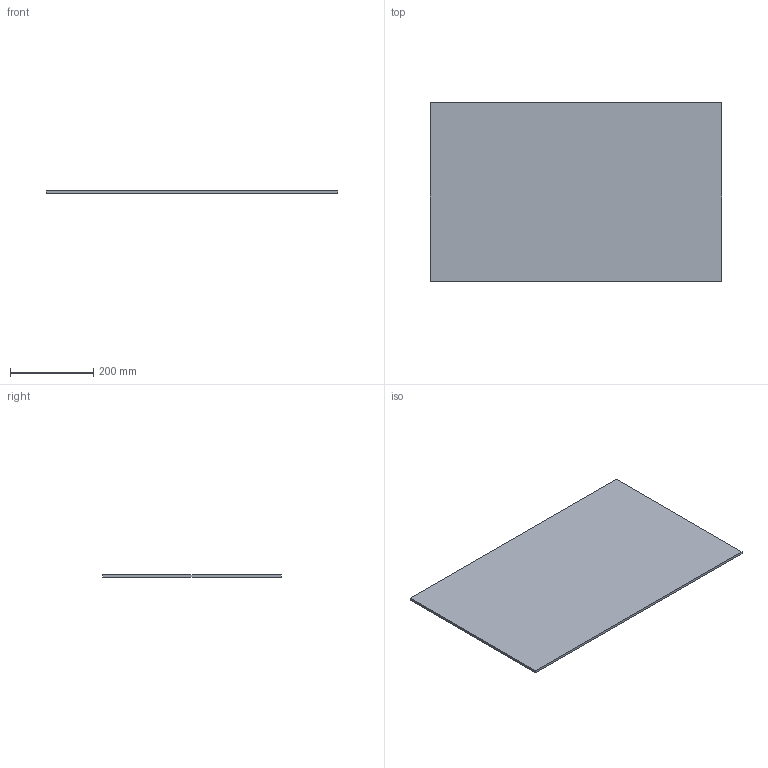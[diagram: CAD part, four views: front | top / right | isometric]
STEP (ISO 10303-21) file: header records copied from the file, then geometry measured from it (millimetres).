
FILE_DESCRIPTION (( 'STEP AP214' ), '1' );
FILE_NAME ('Lochblech_NL450_KAB800_19.step', '2010-10-11T13:38:31', ( 'grass' ), ( '' ), 'SwSTEP 2.0', 'SolidWorks 2010', '' );
FILE_SCHEMA (( 'AUTOMOTIVE_DESIGN' ));
Length unit declared in the file: millimetre
Products named in the file (1): Lochblech_NL450_KAB800_19
Bounding box: 702 x 429 x 6 mm (x, y, z)
Volume: 1806948 mm3; surface area: 615888 mm2
Topology: 1 solids, 1 shells, 6 faces, 12 edges, 8 vertices
Faces by surface type: plane 6
Entity records: 190 total; most frequent: CARTESIAN_POINT 27, DIRECTION 26, ORIENTED_EDGE 24, EDGE_CURVE 12, LINE 12, VECTOR 12, VERTEX_POINT 8, AXIS2_PLACEMENT_3D 7
